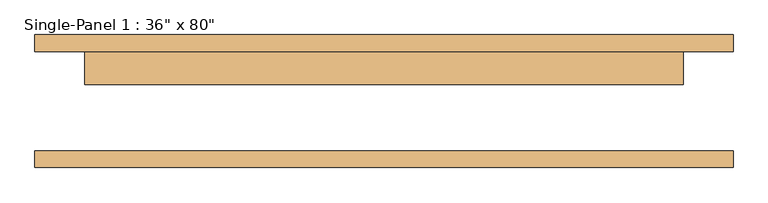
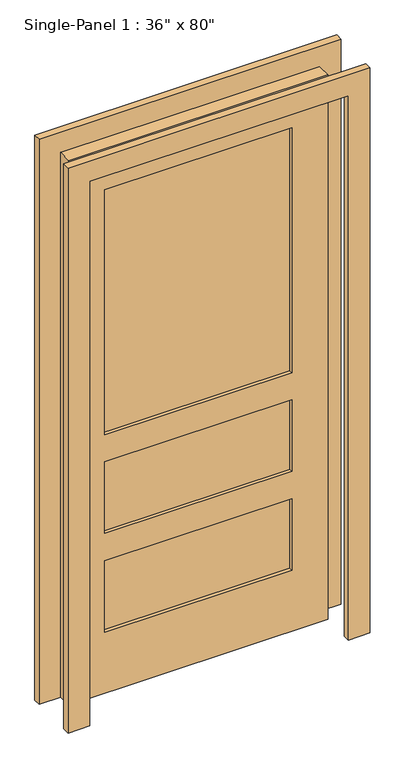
"""IFC4 building model written with IfcOpenShell, lengths in millimetres: door geometry."""

from ifc_helpers import new_model, si_unit, frame, origin, place, context, project, spatial, polyline, outline, extrude, source, transform, mapped, element, save


def door_d17baa25(model_context):
    return source(origin(), model_context, "Body", "SweptSolid", [
        extrude(outline(polyline([(0.0, -533.4), (0.0, -457.2), (2032.0, -457.2), (2032.0, 457.2), (0.0, 457.2), (0.0, 533.4), (2108.2, 533.4), (2108.2, -533.4), (0.0, -533.4)])), frame((0.0, -101.6, 0.0), z_axis=(0.0, 1.0, 0.0), x_axis=(0.0, 0.0, 1.0)), (0.0, 0.0, 1.0), 25.4),
        extrude(outline(polyline([(0.0, 533.4), (2108.2, 533.4), (2108.2, -533.4), (0.0, -533.4), (0.0, -457.2), (2032.0, -457.2), (2032.0, 457.2), (0.0, 457.2), (0.0, 533.4)])), frame((0.0, 76.2, 0.0), z_axis=(0.0, 1.0, 0.0), x_axis=(0.0, 0.0, 1.0)), (0.0, 0.0, 1.0), 25.4),
        extrude(outline(polyline([(330.2, 38.1), (-330.2, 38.1), (-330.2, 63.5), (330.2, 63.5), (330.2, 38.1)])), frame((0.0, 0.0, 965.2), z_axis=(0.0, 0.0, 1.0), x_axis=(1.0, 0.0, 0.0)), (0.0, 0.0, 1.0), 914.4),
        extrude(outline(polyline([(330.2, 38.1), (-330.2, 38.1), (-330.2, 63.5), (330.2, 63.5), (330.2, 38.1)])), frame((0.0, 0.0, 596.9), z_axis=(0.0, 0.0, 1.0), x_axis=(1.0, 0.0, 0.0)), (0.0, 0.0, 1.0), 266.7),
        extrude(outline(polyline([(330.2, 38.1), (-330.2, 38.1), (-330.2, 63.5), (330.2, 63.5), (330.2, 38.1)])), frame((0.0, 0.0, 228.6), z_axis=(0.0, 0.0, 1.0), x_axis=(1.0, 0.0, 0.0)), (0.0, 0.0, 1.0), 266.7),
        extrude(outline(polyline([(2032.0, 457.2), (2032.0, -457.2), (0.0, -457.2), (0.0, 457.2), (2032.0, 457.2)]), holes=[polyline([(965.2, 330.2), (965.2, -330.2), (1879.6, -330.2), (1879.6, 330.2), (965.2, 330.2)]), polyline([(596.9, 330.2), (596.9, -330.2), (863.6, -330.2), (863.6, 330.2), (596.9, 330.2)]), polyline([(495.3, 330.2), (228.6, 330.2), (228.6, -330.2), (495.3, -330.2), (495.3, 330.2)])]), frame((0.0, 25.4, 0.0), z_axis=(0.0, 1.0, 0.0), x_axis=(0.0, 0.0, 1.0)), (0.0, 0.0, 1.0), 50.8),
    ])


if __name__ == "__main__":
    model = new_model("IFC4")
    model_context = context("Model", 3, world=origin())
    ifc_project = project(units=[si_unit("LENGTHUNIT", "METRE", prefix="MILLI")], contexts=[model_context])
    site = spatial("IfcSite", under=ifc_project)
    building = spatial("IfcBuilding", under=site)
    placement = place(None, origin())
    door_shape = door_d17baa25(model_context)
    element("IfcDoor", 1, ObjectType="Single-Panel 1 : 36\" x 80\"", at=placement, inside=building, context=model_context, shape_type="MappedRepresentation", body=[
        mapped(door_shape, transform((0.0, 0.0, 0.0), x_axis=(1.0, 0.0, 0.0), y_axis=(0.0, 1.0, 0.0), z_axis=(0.0, 0.0, 1.0))),
    ])
    save(model, "model.ifc")
